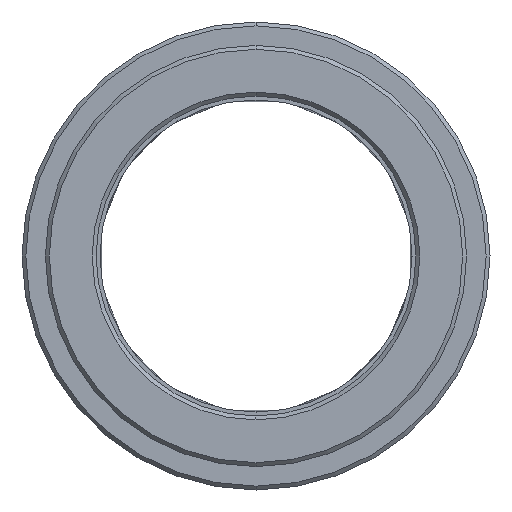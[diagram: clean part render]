
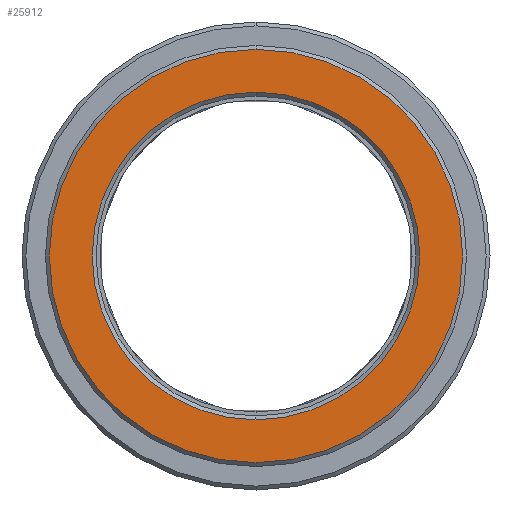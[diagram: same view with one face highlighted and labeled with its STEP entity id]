
A CAD part, left-side view. The second image highlights one B-rep face of the part: STEP entity #25912.
In plain terms, the highlighted planar face has unit normal (-1, 0, 0).
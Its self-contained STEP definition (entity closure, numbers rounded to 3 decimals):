
#10710=CARTESIAN_POINT('',(-10.,0.,
0.));
#10711=DIRECTION('',(1.,0.,0.));
#10712=DIRECTION('',(0.,0.,1.));
#10713=AXIS2_PLACEMENT_3D('',#10710,#10711,#10712);
#10715=CARTESIAN_POINT('',(-10.,0.,
0.));
#10716=DIRECTION('',(1.,0.,0.));
#10717=DIRECTION('',(0.,0.,-1.));
#10718=AXIS2_PLACEMENT_3D('',#10715,#10716,#10717);
#10720=CARTESIAN_POINT('',(-10.,0.,
0.));
#10721=DIRECTION('',(1.,0.,0.));
#10722=DIRECTION('',(0.,0.,1.));
#10723=AXIS2_PLACEMENT_3D('',#10720,#10721,#10722);
#10725=CARTESIAN_POINT('',(-10.,0.,
0.));
#10726=DIRECTION('',(1.,0.,0.));
#10727=DIRECTION('',(0.,0.,-1.));
#10728=AXIS2_PLACEMENT_3D('',#10725,#10726,#10727);
#22260=CARTESIAN_POINT('',(-10.,0.,21.));
#22261=CARTESIAN_POINT('',(-10.,0.,-21.));
#22262=VERTEX_POINT('',#22260);
#22263=VERTEX_POINT('',#22261);
#22268=CARTESIAN_POINT('',(-10.,0.,26.5));
#22269=CARTESIAN_POINT('',(-10.,0.,
-26.5));
#22270=VERTEX_POINT('',#22268);
#22271=VERTEX_POINT('',#22269);
#25896=CARTESIAN_POINT('',(-10.,0.,0.));
#25897=DIRECTION('',(1.,0.,0.));
#25898=DIRECTION('',(0.,0.,1.));
#25899=AXIS2_PLACEMENT_3D('',#25896,#25897,#25898);
#25900=PLANE('',#25899);
#25902=ORIENTED_EDGE('',*,*,#25901,.T.);
#25904=ORIENTED_EDGE('',*,*,#25903,.T.);
#25905=EDGE_LOOP('',(#25902,#25904));
#25906=FACE_OUTER_BOUND('',#25905,.F.);
#25907=ORIENTED_EDGE('',*,*,#25886,.F.);
#25909=ORIENTED_EDGE('',*,*,#25908,.F.);
#25910=EDGE_LOOP('',(#25907,#25909));
#25911=FACE_BOUND('',#25910,.F.);
#25912=ADVANCED_FACE('',(#25906,#25911),#25900,.F.);
#10714=CIRCLE('',#10713,26.5);
#10719=CIRCLE('',#10718,26.5);
#10724=CIRCLE('',#10723,21.);
#10729=CIRCLE('',#10728,21.);
#25886=EDGE_CURVE('',#22262,#22263,#10724,.T.);
#25901=EDGE_CURVE('',#22270,#22271,#10714,.T.);
#25903=EDGE_CURVE('',#22271,#22270,#10719,.T.);
#25908=EDGE_CURVE('',#22263,#22262,#10729,.T.);
